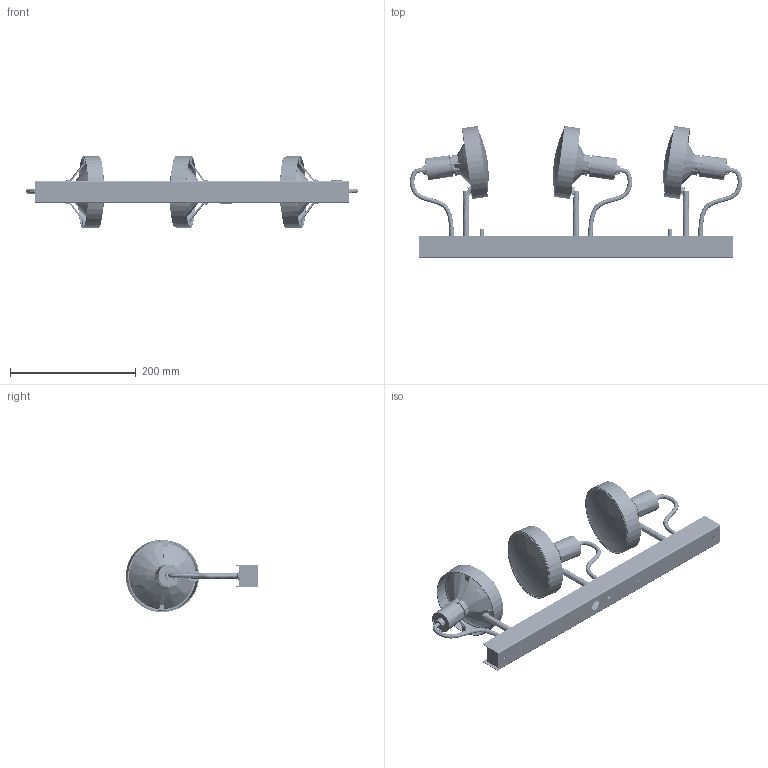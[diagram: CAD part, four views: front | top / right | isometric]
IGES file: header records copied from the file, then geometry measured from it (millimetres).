
Start section: SolidWorks IGES file using analytic representation for surfaces
Global section: file name: C:\Users\Asia\Desktop\IGS CROSS BASIC\500 cross igs.IGS; native system: SolidWorks 2016; preprocessor: SolidWorks 2016; author: Asia; date: 161021.085857; units: millimetre
Bounding box: 528.42 x 210.37 x 114.92 mm (x, y, z)
Surface area: 527876.5 mm2 (no closed solid volume)
Topology: 0 solids, 0 shells, 3456 faces, 46226 edges, 46083 vertices
Faces by surface type: bspline 1935, revolution 1521
